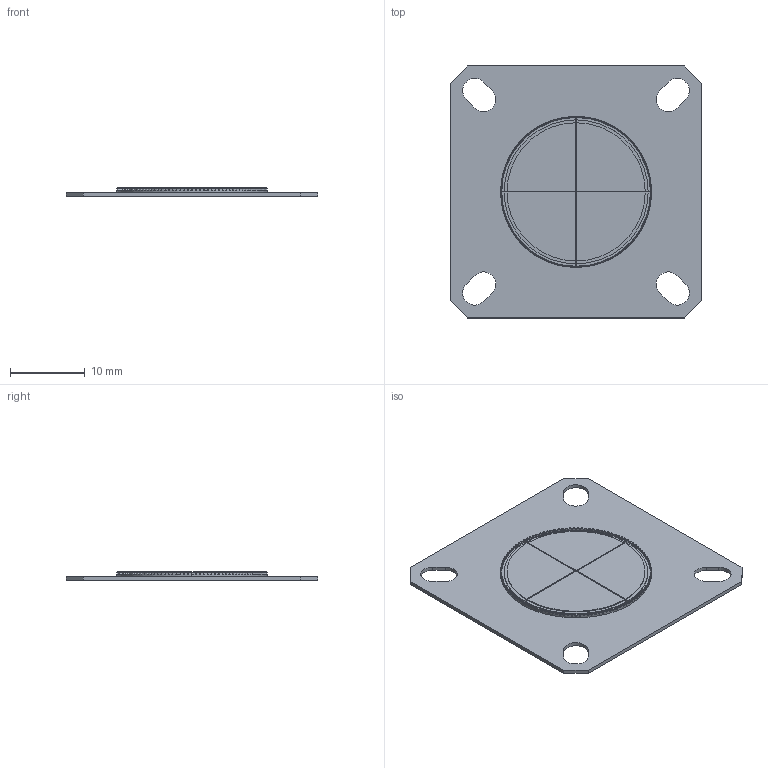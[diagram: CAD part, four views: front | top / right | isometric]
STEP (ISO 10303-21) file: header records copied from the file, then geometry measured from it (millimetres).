
FILE_DESCRIPTION((''),'2;1');
FILE_NAME('PROTO_INSERT_SIM_DUMMY-17','2020-10-15T11:18:16',('ccole'),(''),'CREO PARAMETRIC BY PTC INC, 2019292','CREO PARAMETRIC BY PTC INC, 2019292','');
FILE_SCHEMA(('CONFIG_CONTROL_DESIGN'));
Length unit declared in the file: inch
Products named in the file (1): PROTO_INSERT_SIM_DUMMY-17
Bounding box: 33.6 x 33.6 x 1.14 mm (x, y, z)
Volume: 693 mm3; surface area: 2287.2 mm2
Topology: 1 solids, 1 shells, 787 faces, 2343 edges, 1559 vertices
Faces by surface type: plane 401, cylinder 386
Entity records: 28994 total; most frequent: CARTESIAN_POINT 9941, ORIENTED_EDGE 4686, DIRECTION 2989, EDGE_CURVE 2343, VERTEX_POINT 1559, B_SPLINE_CURVE_WITH_KNOTS 1211, AXIS2_PLACEMENT_3D 1070, VECTOR 849
